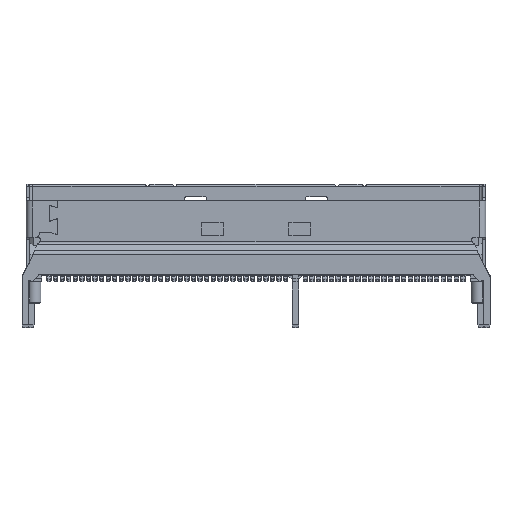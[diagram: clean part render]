
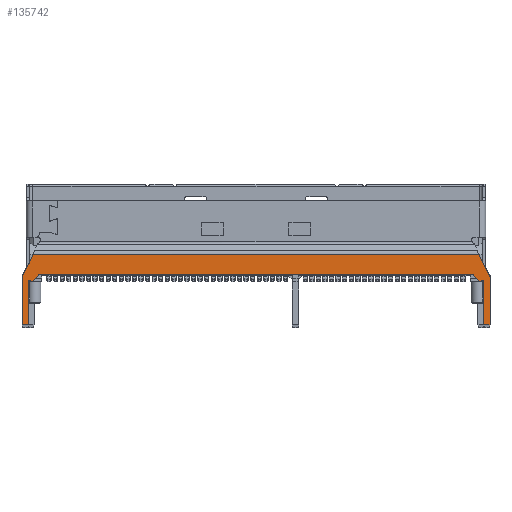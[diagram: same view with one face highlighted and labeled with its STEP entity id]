
A CAD part, top view. The second image highlights one B-rep face of the part: STEP entity #135742.
In plain terms, the highlighted planar face has unit normal (0, 0, 1).
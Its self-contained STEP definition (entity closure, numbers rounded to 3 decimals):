
#4479=DIRECTION('',(-1.,0.,0.));
#4480=VECTOR('',#4479,40.673);
#4481=CARTESIAN_POINT('',(20.336,1.891,3.35));
#4482=LINE('',#4481,#4480);
#4501=CARTESIAN_POINT('',(20.675,-0.53,3.35));
#4502=DIRECTION('',(0.,0.,-1.));
#4503=DIRECTION('',(-1.,0.,0.));
#4504=AXIS2_PLACEMENT_3D('',#4501,#4502,#4503);
#4506=DIRECTION('',(1.,0.,0.));
#4507=VECTOR('',#4506,0.16);
#4508=CARTESIAN_POINT('',(20.415,-0.53,3.35));
#4509=LINE('',#4508,#4507);
#4510=DIRECTION('',(0.695,-0.719,0.));
#4511=VECTOR('',#4510,0.776);
#4512=CARTESIAN_POINT('',(19.876,0.028,3.35));
#4513=LINE('',#4512,#4511);
#4514=CARTESIAN_POINT('',(19.66,-0.18,3.35));
#4515=DIRECTION('',(0.,0.,-1.));
#4516=DIRECTION('',(0.,1.,0.));
#4517=AXIS2_PLACEMENT_3D('',#4514,#4515,#4516);
#4519=DIRECTION('',(1.,0.,0.));
#4520=VECTOR('',#4519,39.32);
#4521=CARTESIAN_POINT('',(-19.66,0.12,3.35));
#4522=LINE('',#4521,#4520);
#4523=CARTESIAN_POINT('',(-19.66,-0.18,3.35));
#4524=DIRECTION('',(0.,0.,-1.));
#4525=DIRECTION('',(-0.719,0.695,0.));
#4526=AXIS2_PLACEMENT_3D('',#4523,#4524,#4525);
#4528=DIRECTION('',(0.695,0.719,0.));
#4529=VECTOR('',#4528,0.776);
#4530=CARTESIAN_POINT('',(-20.415,-0.53,3.35));
#4531=LINE('',#4530,#4529);
#4532=CARTESIAN_POINT('',(-20.675,-0.53,3.35));
#4533=DIRECTION('',(0.,0.,-1.));
#4534=DIRECTION('',(-1.,0.,0.));
#4535=AXIS2_PLACEMENT_3D('',#4532,#4533,#4534);
#4537=DIRECTION('',(-0.466,-0.885,0.));
#4538=VECTOR('',#4537,2.228);
#4539=CARTESIAN_POINT('',(-20.336,1.891,3.35));
#4540=LINE('',#4539,#4538);
#4541=DIRECTION('',(-0.442,0.897,0.));
#4542=VECTOR('',#4541,2.353);
#4543=CARTESIAN_POINT('',(21.375,-0.22,3.35));
#4544=LINE('',#4543,#4542);
#4551=DIRECTION('',(-1.,0.,0.));
#4552=VECTOR('',#4551,0.6);
#4553=CARTESIAN_POINT('',(21.375,-4.48,3.35));
#4554=LINE('',#4553,#4552);
#4613=DIRECTION('',(0.,-1.,0.));
#4614=VECTOR('',#4613,4.26);
#4615=CARTESIAN_POINT('',(21.375,-0.22,3.35));
#4616=LINE('',#4615,#4614);
#4717=DIRECTION('',(0.,-1.,0.));
#4718=VECTOR('',#4717,4.4);
#4719=CARTESIAN_POINT('',(-21.375,-0.08,3.35));
#4720=LINE('',#4719,#4718);
#4767=DIRECTION('',(-1.,0.,0.));
#4768=VECTOR('',#4767,0.6);
#4769=CARTESIAN_POINT('',(-20.775,-4.48,3.35));
#4770=LINE('',#4769,#4768);
#4801=DIRECTION('',(0.,-1.,0.));
#4802=VECTOR('',#4801,3.95);
#4803=CARTESIAN_POINT('',(-20.775,-0.53,3.35));
#4804=LINE('',#4803,#4802);
#4842=DIRECTION('',(1.,0.,0.));
#4843=VECTOR('',#4842,0.16);
#4844=CARTESIAN_POINT('',(-20.575,-0.53,3.35));
#4845=LINE('',#4844,#4843);
#64676=DIRECTION('',(0.,-1.,0.));
#64677=VECTOR('',#64676,3.95);
#64678=CARTESIAN_POINT('',(20.775,-0.53,3.35));
#64679=LINE('',#64678,#64677);
#107523=CARTESIAN_POINT('',(20.415,-0.53,3.35));
#107524=VERTEX_POINT('',#107523);
#107525=CARTESIAN_POINT('',(19.876,0.028,3.35));
#107526=VERTEX_POINT('',#107525);
#107529=CARTESIAN_POINT('',(19.66,0.12,3.35));
#107530=VERTEX_POINT('',#107529);
#107533=CARTESIAN_POINT('',(-19.66,0.12,3.35));
#107534=VERTEX_POINT('',#107533);
#107549=CARTESIAN_POINT('',(-19.876,0.028,3.35));
#107550=VERTEX_POINT('',#107549);
#107555=CARTESIAN_POINT('',(-20.415,-0.53,3.35));
#107556=VERTEX_POINT('',#107555);
#107843=CARTESIAN_POINT('',(20.575,-0.53,3.35));
#107844=VERTEX_POINT('',#107843);
#107845=CARTESIAN_POINT('',(21.375,-4.48,3.35));
#107846=CARTESIAN_POINT('',(20.775,-4.48,3.35));
#107847=VERTEX_POINT('',#107845);
#107848=VERTEX_POINT('',#107846);
#107849=CARTESIAN_POINT('',(20.775,-0.53,3.35));
#107850=VERTEX_POINT('',#107849);
#107851=CARTESIAN_POINT('',(-20.575,-0.53,3.35));
#107852=VERTEX_POINT('',#107851);
#107853=CARTESIAN_POINT('',(-20.775,-0.53,3.35));
#107854=VERTEX_POINT('',#107853);
#107855=CARTESIAN_POINT('',(-20.775,-4.48,3.35));
#107856=VERTEX_POINT('',#107855);
#107857=CARTESIAN_POINT('',(-21.375,-4.48,3.35));
#107858=VERTEX_POINT('',#107857);
#107859=CARTESIAN_POINT('',(-21.375,-0.08,3.35));
#107860=VERTEX_POINT('',#107859);
#107861=CARTESIAN_POINT('',(-20.336,1.891,3.35));
#107862=VERTEX_POINT('',#107861);
#107863=CARTESIAN_POINT('',(20.336,1.891,3.35));
#107864=VERTEX_POINT('',#107863);
#107865=CARTESIAN_POINT('',(21.375,-0.22,3.35));
#107866=VERTEX_POINT('',#107865);
#135700=CARTESIAN_POINT('',(0.,-1.294,3.35));
#135701=DIRECTION('',(0.,0.,1.));
#135702=DIRECTION('',(0.,-1.,0.));
#135703=AXIS2_PLACEMENT_3D('',#135700,#135701,#135702);
#135704=PLANE('',#135703);
#135706=ORIENTED_EDGE('',*,*,#135705,.T.);
#135708=ORIENTED_EDGE('',*,*,#135707,.F.);
#135710=ORIENTED_EDGE('',*,*,#135709,.F.);
#135712=ORIENTED_EDGE('',*,*,#135711,.F.);
#135714=ORIENTED_EDGE('',*,*,#135713,.F.);
#135716=ORIENTED_EDGE('',*,*,#135715,.F.);
#135718=ORIENTED_EDGE('',*,*,#135717,.F.);
#135720=ORIENTED_EDGE('',*,*,#135719,.F.);
#135722=ORIENTED_EDGE('',*,*,#135721,.F.);
#135724=ORIENTED_EDGE('',*,*,#135723,.F.);
#135726=ORIENTED_EDGE('',*,*,#135725,.F.);
#135728=ORIENTED_EDGE('',*,*,#135727,.T.);
#135730=ORIENTED_EDGE('',*,*,#135729,.T.);
#135732=ORIENTED_EDGE('',*,*,#135731,.F.);
#135734=ORIENTED_EDGE('',*,*,#135733,.F.);
#135735=ORIENTED_EDGE('',*,*,#135690,.F.);
#135737=ORIENTED_EDGE('',*,*,#135736,.F.);
#135739=ORIENTED_EDGE('',*,*,#135738,.T.);
#135740=EDGE_LOOP('',(#135706,#135708,#135710,#135712,#135714,#135716,#135718,
#135720,#135722,#135724,#135726,#135728,#135730,#135732,#135734,#135735,#135737,
#135739));
#135741=FACE_OUTER_BOUND('',#135740,.F.);
#4505=CIRCLE('',#4504,0.1);
#4518=CIRCLE('',#4517,0.3);
#4527=CIRCLE('',#4526,0.3);
#4536=CIRCLE('',#4535,0.1);
#135690=EDGE_CURVE('',#107864,#107862,#4482,.T.);
#135705=EDGE_CURVE('',#107847,#107848,#4554,.T.);
#135707=EDGE_CURVE('',#107850,#107848,#64679,.T.);
#135709=EDGE_CURVE('',#107844,#107850,#4505,.T.);
#135711=EDGE_CURVE('',#107524,#107844,#4509,.T.);
#135713=EDGE_CURVE('',#107526,#107524,#4513,.T.);
#135715=EDGE_CURVE('',#107530,#107526,#4518,.T.);
#135717=EDGE_CURVE('',#107534,#107530,#4522,.T.);
#135719=EDGE_CURVE('',#107550,#107534,#4527,.T.);
#135721=EDGE_CURVE('',#107556,#107550,#4531,.T.);
#135723=EDGE_CURVE('',#107852,#107556,#4845,.T.);
#135725=EDGE_CURVE('',#107854,#107852,#4536,.T.);
#135727=EDGE_CURVE('',#107854,#107856,#4804,.T.);
#135729=EDGE_CURVE('',#107856,#107858,#4770,.T.);
#135731=EDGE_CURVE('',#107860,#107858,#4720,.T.);
#135733=EDGE_CURVE('',#107862,#107860,#4540,.T.);
#135736=EDGE_CURVE('',#107866,#107864,#4544,.T.);
#135738=EDGE_CURVE('',#107866,#107847,#4616,.T.);
#135742=ADVANCED_FACE('',(#135741),#135704,.T.);
